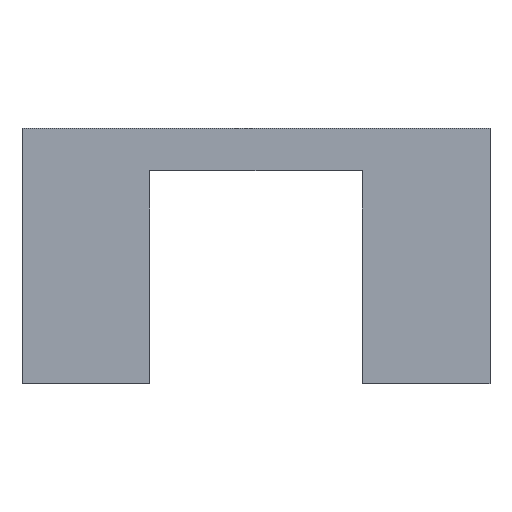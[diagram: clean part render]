
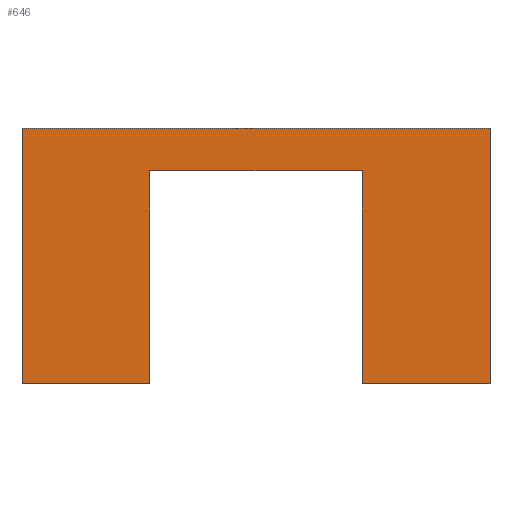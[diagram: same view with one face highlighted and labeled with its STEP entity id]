
A CAD part, top view. The second image highlights one B-rep face of the part: STEP entity #646.
In plain terms, the highlighted planar face has unit normal (0, 0, 1).
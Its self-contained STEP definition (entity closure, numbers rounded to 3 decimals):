
#24 = VERTEX_POINT('',#25);
#25 = CARTESIAN_POINT('',(110.,0.,20.));
#32 = PLANE('',#33);
#33 = AXIS2_PLACEMENT_3D('',#34,#35,#36);
#34 = CARTESIAN_POINT('',(110.,0.,0.));
#35 = DIRECTION('',(-0.,1.,-0.));
#36 = DIRECTION('',(1.,0.,0.));
#44 = PLANE('',#45);
#45 = AXIS2_PLACEMENT_3D('',#46,#47,#48);
#46 = CARTESIAN_POINT('',(110.,120.,0.));
#47 = DIRECTION('',(-1.,-0.,-0.));
#48 = DIRECTION('',(0.,1.,0.));
#56 = EDGE_CURVE('',#24,#57,#59,.T.);
#57 = VERTEX_POINT('',#58);
#58 = CARTESIAN_POINT('',(50.,0.,20.));
#59 = SURFACE_CURVE('',#60,(#64,#71),.PCURVE_S1.);
#60 = LINE('',#61,#62);
#61 = CARTESIAN_POINT('',(110.,0.,20.));
#62 = VECTOR('',#63,1.);
#63 = DIRECTION('',(-1.,-0.,-0.));
#64 = PCURVE('',#32,#65);
#65 = DEFINITIONAL_REPRESENTATION('',(#66),#70);
#66 = LINE('',#67,#68);
#67 = CARTESIAN_POINT('',(-0.,-20.));
#68 = VECTOR('',#69,1.);
#69 = DIRECTION('',(-1.,0.));
#70 = ( GEOMETRIC_REPRESENTATION_CONTEXT(2) 
PARAMETRIC_REPRESENTATION_CONTEXT() REPRESENTATION_CONTEXT('2D SPACE',''
  ) );
#71 = PCURVE('',#72,#77);
#72 = PLANE('',#73);
#73 = AXIS2_PLACEMENT_3D('',#74,#75,#76);
#74 = CARTESIAN_POINT('',(0.,69.091,20.));
#75 = DIRECTION('',(-0.,-0.,1.));
#76 = DIRECTION('',(1.,0.,0.));
#77 = DEFINITIONAL_REPRESENTATION('',(#78),#82);
#78 = LINE('',#79,#80);
#79 = CARTESIAN_POINT('',(110.,-69.091));
#80 = VECTOR('',#81,1.);
#81 = DIRECTION('',(-1.,0.));
#82 = ( GEOMETRIC_REPRESENTATION_CONTEXT(2) 
PARAMETRIC_REPRESENTATION_CONTEXT() REPRESENTATION_CONTEXT('2D SPACE',''
  ) );
#100 = PLANE('',#101);
#101 = AXIS2_PLACEMENT_3D('',#102,#103,#104);
#102 = CARTESIAN_POINT('',(50.,0.,0.));
#103 = DIRECTION('',(1.,-0.,-0.));
#104 = DIRECTION('',(0.,-1.,0.));
#142 = EDGE_CURVE('',#57,#143,#145,.T.);
#143 = VERTEX_POINT('',#144);
#144 = CARTESIAN_POINT('',(50.,100.,20.));
#145 = SURFACE_CURVE('',#146,(#150,#157),.PCURVE_S1.);
#146 = LINE('',#147,#148);
#147 = CARTESIAN_POINT('',(50.,0.,20.));
#148 = VECTOR('',#149,1.);
#149 = DIRECTION('',(-0.,1.,-0.));
#150 = PCURVE('',#100,#151);
#151 = DEFINITIONAL_REPRESENTATION('',(#152),#156);
#152 = LINE('',#153,#154);
#153 = CARTESIAN_POINT('',(-0.,-20.));
#154 = VECTOR('',#155,1.);
#155 = DIRECTION('',(-1.,0.));
#156 = ( GEOMETRIC_REPRESENTATION_CONTEXT(2) 
PARAMETRIC_REPRESENTATION_CONTEXT() REPRESENTATION_CONTEXT('2D SPACE',''
  ) );
#157 = PCURVE('',#72,#158);
#158 = DEFINITIONAL_REPRESENTATION('',(#159),#163);
#159 = LINE('',#160,#161);
#160 = CARTESIAN_POINT('',(50.,-69.091));
#161 = VECTOR('',#162,1.);
#162 = DIRECTION('',(-0.,1.));
#163 = ( GEOMETRIC_REPRESENTATION_CONTEXT(2) 
PARAMETRIC_REPRESENTATION_CONTEXT() REPRESENTATION_CONTEXT('2D SPACE',''
  ) );
#181 = PLANE('',#182);
#182 = AXIS2_PLACEMENT_3D('',#183,#184,#185);
#183 = CARTESIAN_POINT('',(50.,100.,0.));
#184 = DIRECTION('',(-0.,1.,-0.));
#185 = DIRECTION('',(1.,0.,0.));
#218 = EDGE_CURVE('',#143,#219,#221,.T.);
#219 = VERTEX_POINT('',#220);
#220 = CARTESIAN_POINT('',(-50.,100.,20.));
#221 = SURFACE_CURVE('',#222,(#226,#233),.PCURVE_S1.);
#222 = LINE('',#223,#224);
#223 = CARTESIAN_POINT('',(50.,100.,20.));
#224 = VECTOR('',#225,1.);
#225 = DIRECTION('',(-1.,-0.,-0.));
#226 = PCURVE('',#181,#227);
#227 = DEFINITIONAL_REPRESENTATION('',(#228),#232);
#228 = LINE('',#229,#230);
#229 = CARTESIAN_POINT('',(-0.,-20.));
#230 = VECTOR('',#231,1.);
#231 = DIRECTION('',(-1.,0.));
#232 = ( GEOMETRIC_REPRESENTATION_CONTEXT(2) 
PARAMETRIC_REPRESENTATION_CONTEXT() REPRESENTATION_CONTEXT('2D SPACE',''
  ) );
#233 = PCURVE('',#72,#234);
#234 = DEFINITIONAL_REPRESENTATION('',(#235),#239);
#235 = LINE('',#236,#237);
#236 = CARTESIAN_POINT('',(50.,30.909));
#237 = VECTOR('',#238,1.);
#238 = DIRECTION('',(-1.,0.));
#239 = ( GEOMETRIC_REPRESENTATION_CONTEXT(2) 
PARAMETRIC_REPRESENTATION_CONTEXT() REPRESENTATION_CONTEXT('2D SPACE',''
  ) );
#257 = PLANE('',#258);
#258 = AXIS2_PLACEMENT_3D('',#259,#260,#261);
#259 = CARTESIAN_POINT('',(-50.,100.,0.));
#260 = DIRECTION('',(-1.,-0.,-0.));
#261 = DIRECTION('',(0.,1.,0.));
#294 = EDGE_CURVE('',#219,#295,#297,.T.);
#295 = VERTEX_POINT('',#296);
#296 = CARTESIAN_POINT('',(-50.,0.,20.));
#297 = SURFACE_CURVE('',#298,(#302,#309),.PCURVE_S1.);
#298 = LINE('',#299,#300);
#299 = CARTESIAN_POINT('',(-50.,100.,20.));
#300 = VECTOR('',#301,1.);
#301 = DIRECTION('',(-0.,-1.,-0.));
#302 = PCURVE('',#257,#303);
#303 = DEFINITIONAL_REPRESENTATION('',(#304),#308);
#304 = LINE('',#305,#306);
#305 = CARTESIAN_POINT('',(-0.,-20.));
#306 = VECTOR('',#307,1.);
#307 = DIRECTION('',(-1.,0.));
#308 = ( GEOMETRIC_REPRESENTATION_CONTEXT(2) 
PARAMETRIC_REPRESENTATION_CONTEXT() REPRESENTATION_CONTEXT('2D SPACE',''
  ) );
#309 = PCURVE('',#72,#310);
#310 = DEFINITIONAL_REPRESENTATION('',(#311),#315);
#311 = LINE('',#312,#313);
#312 = CARTESIAN_POINT('',(-50.,30.909));
#313 = VECTOR('',#314,1.);
#314 = DIRECTION('',(-0.,-1.));
#315 = ( GEOMETRIC_REPRESENTATION_CONTEXT(2) 
PARAMETRIC_REPRESENTATION_CONTEXT() REPRESENTATION_CONTEXT('2D SPACE',''
  ) );
#333 = PLANE('',#334);
#334 = AXIS2_PLACEMENT_3D('',#335,#336,#337);
#335 = CARTESIAN_POINT('',(-50.,0.,0.));
#336 = DIRECTION('',(-0.,1.,-0.));
#337 = DIRECTION('',(1.,0.,0.));
#370 = EDGE_CURVE('',#295,#371,#373,.T.);
#371 = VERTEX_POINT('',#372);
#372 = CARTESIAN_POINT('',(-110.,0.,20.));
#373 = SURFACE_CURVE('',#374,(#378,#385),.PCURVE_S1.);
#374 = LINE('',#375,#376);
#375 = CARTESIAN_POINT('',(-50.,0.,20.));
#376 = VECTOR('',#377,1.);
#377 = DIRECTION('',(-1.,-0.,-0.));
#378 = PCURVE('',#333,#379);
#379 = DEFINITIONAL_REPRESENTATION('',(#380),#384);
#380 = LINE('',#381,#382);
#381 = CARTESIAN_POINT('',(-0.,-20.));
#382 = VECTOR('',#383,1.);
#383 = DIRECTION('',(-1.,0.));
#384 = ( GEOMETRIC_REPRESENTATION_CONTEXT(2) 
PARAMETRIC_REPRESENTATION_CONTEXT() REPRESENTATION_CONTEXT('2D SPACE',''
  ) );
#385 = PCURVE('',#72,#386);
#386 = DEFINITIONAL_REPRESENTATION('',(#387),#391);
#387 = LINE('',#388,#389);
#388 = CARTESIAN_POINT('',(-50.,-69.091));
#389 = VECTOR('',#390,1.);
#390 = DIRECTION('',(-1.,0.));
#391 = ( GEOMETRIC_REPRESENTATION_CONTEXT(2) 
PARAMETRIC_REPRESENTATION_CONTEXT() REPRESENTATION_CONTEXT('2D SPACE',''
  ) );
#409 = PLANE('',#410);
#410 = AXIS2_PLACEMENT_3D('',#411,#412,#413);
#411 = CARTESIAN_POINT('',(-110.,0.,0.));
#412 = DIRECTION('',(1.,-0.,-0.));
#413 = DIRECTION('',(0.,-1.,0.));
#446 = EDGE_CURVE('',#371,#447,#449,.T.);
#447 = VERTEX_POINT('',#448);
#448 = CARTESIAN_POINT('',(-110.,120.,20.));
#449 = SURFACE_CURVE('',#450,(#454,#461),.PCURVE_S1.);
#450 = LINE('',#451,#452);
#451 = CARTESIAN_POINT('',(-110.,0.,20.));
#452 = VECTOR('',#453,1.);
#453 = DIRECTION('',(-0.,1.,-0.));
#454 = PCURVE('',#409,#455);
#455 = DEFINITIONAL_REPRESENTATION('',(#456),#460);
#456 = LINE('',#457,#458);
#457 = CARTESIAN_POINT('',(-0.,-20.));
#458 = VECTOR('',#459,1.);
#459 = DIRECTION('',(-1.,0.));
#460 = ( GEOMETRIC_REPRESENTATION_CONTEXT(2) 
PARAMETRIC_REPRESENTATION_CONTEXT() REPRESENTATION_CONTEXT('2D SPACE',''
  ) );
#461 = PCURVE('',#72,#462);
#462 = DEFINITIONAL_REPRESENTATION('',(#463),#467);
#463 = LINE('',#464,#465);
#464 = CARTESIAN_POINT('',(-110.,-69.091));
#465 = VECTOR('',#466,1.);
#466 = DIRECTION('',(-0.,1.));
#467 = ( GEOMETRIC_REPRESENTATION_CONTEXT(2) 
PARAMETRIC_REPRESENTATION_CONTEXT() REPRESENTATION_CONTEXT('2D SPACE',''
  ) );
#485 = PLANE('',#486);
#486 = AXIS2_PLACEMENT_3D('',#487,#488,#489);
#487 = CARTESIAN_POINT('',(-110.,120.,0.));
#488 = DIRECTION('',(-0.,-1.,-0.));
#489 = DIRECTION('',(-1.,0.,0.));
#522 = EDGE_CURVE('',#447,#523,#525,.T.);
#523 = VERTEX_POINT('',#524);
#524 = CARTESIAN_POINT('',(110.,120.,20.));
#525 = SURFACE_CURVE('',#526,(#530,#537),.PCURVE_S1.);
#526 = LINE('',#527,#528);
#527 = CARTESIAN_POINT('',(-110.,120.,20.));
#528 = VECTOR('',#529,1.);
#529 = DIRECTION('',(1.,-0.,-0.));
#530 = PCURVE('',#485,#531);
#531 = DEFINITIONAL_REPRESENTATION('',(#532),#536);
#532 = LINE('',#533,#534);
#533 = CARTESIAN_POINT('',(-0.,-20.));
#534 = VECTOR('',#535,1.);
#535 = DIRECTION('',(-1.,0.));
#536 = ( GEOMETRIC_REPRESENTATION_CONTEXT(2) 
PARAMETRIC_REPRESENTATION_CONTEXT() REPRESENTATION_CONTEXT('2D SPACE',''
  ) );
#537 = PCURVE('',#72,#538);
#538 = DEFINITIONAL_REPRESENTATION('',(#539),#543);
#539 = LINE('',#540,#541);
#540 = CARTESIAN_POINT('',(-110.,50.909));
#541 = VECTOR('',#542,1.);
#542 = DIRECTION('',(1.,-0.));
#543 = ( GEOMETRIC_REPRESENTATION_CONTEXT(2) 
PARAMETRIC_REPRESENTATION_CONTEXT() REPRESENTATION_CONTEXT('2D SPACE',''
  ) );
#593 = EDGE_CURVE('',#523,#24,#594,.T.);
#594 = SURFACE_CURVE('',#595,(#599,#606),.PCURVE_S1.);
#595 = LINE('',#596,#597);
#596 = CARTESIAN_POINT('',(110.,120.,20.));
#597 = VECTOR('',#598,1.);
#598 = DIRECTION('',(-0.,-1.,-0.));
#599 = PCURVE('',#44,#600);
#600 = DEFINITIONAL_REPRESENTATION('',(#601),#605);
#601 = LINE('',#602,#603);
#602 = CARTESIAN_POINT('',(-0.,-20.));
#603 = VECTOR('',#604,1.);
#604 = DIRECTION('',(-1.,0.));
#605 = ( GEOMETRIC_REPRESENTATION_CONTEXT(2) 
PARAMETRIC_REPRESENTATION_CONTEXT() REPRESENTATION_CONTEXT('2D SPACE',''
  ) );
#606 = PCURVE('',#72,#607);
#607 = DEFINITIONAL_REPRESENTATION('',(#608),#612);
#608 = LINE('',#609,#610);
#609 = CARTESIAN_POINT('',(110.,50.909));
#610 = VECTOR('',#611,1.);
#611 = DIRECTION('',(-0.,-1.));
#612 = ( GEOMETRIC_REPRESENTATION_CONTEXT(2) 
PARAMETRIC_REPRESENTATION_CONTEXT() REPRESENTATION_CONTEXT('2D SPACE',''
  ) );
#646 = ADVANCED_FACE('',(#647),#72,.T.);
#647 = FACE_BOUND('',#648,.F.);
#648 = EDGE_LOOP('',(#649,#650,#651,#652,#653,#654,#655,#656));
#649 = ORIENTED_EDGE('',*,*,#56,.T.);
#650 = ORIENTED_EDGE('',*,*,#142,.T.);
#651 = ORIENTED_EDGE('',*,*,#218,.T.);
#652 = ORIENTED_EDGE('',*,*,#294,.T.);
#653 = ORIENTED_EDGE('',*,*,#370,.T.);
#654 = ORIENTED_EDGE('',*,*,#446,.T.);
#655 = ORIENTED_EDGE('',*,*,#522,.T.);
#656 = ORIENTED_EDGE('',*,*,#593,.T.);
